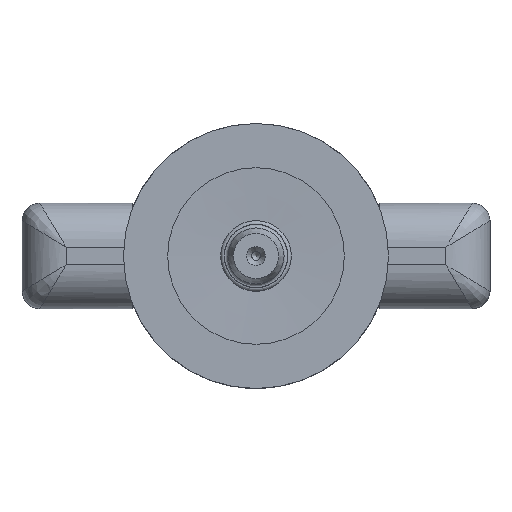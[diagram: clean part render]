
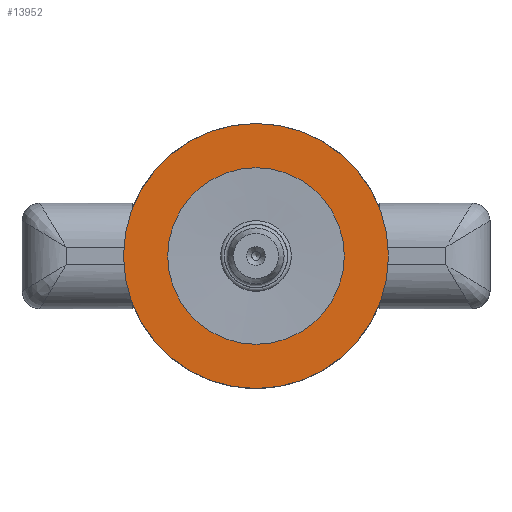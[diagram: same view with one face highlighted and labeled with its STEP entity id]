
A CAD part, front view. The second image highlights one B-rep face of the part: STEP entity #13952.
In plain terms, the highlighted planar face has unit normal (0, -1, 0) as drawn and (0, 0, -1) by its records, which use the part's own axes.
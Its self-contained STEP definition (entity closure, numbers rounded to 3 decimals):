
#378=FACE_BOUND('',#5244,.T.);
#767=PLANE('',#14938);
#4346=FACE_OUTER_BOUND('',#5243,.T.);
#5243=EDGE_LOOP('',(#13138));
#5244=EDGE_LOOP('',(#13139));
#5550=CIRCLE('',#14921,15.);
#5557=CIRCLE('',#14935,10.);
#6912=VERTEX_POINT('',#44149);
#6919=VERTEX_POINT('',#44170);
#8986=EDGE_CURVE('',#6912,#6912,#5550,.T.);
#8993=EDGE_CURVE('',#6919,#6919,#5557,.T.);
#13138=ORIENTED_EDGE('',*,*,#8986,.T.);
#13139=ORIENTED_EDGE('',*,*,#8993,.F.);
#13952=ADVANCED_FACE('',(#4346,#378),#767,.F.);
#14921=AXIS2_PLACEMENT_3D('',#44150,#17554,#17555);
#14935=AXIS2_PLACEMENT_3D('',#44171,#17582,#17583);
#14938=AXIS2_PLACEMENT_3D('',#44175,#17588,#17589);
#17554=DIRECTION('center_axis',(0.,0.,-1.));
#17555=DIRECTION('ref_axis',(-1.,0.,0.));
#17582=DIRECTION('center_axis',(0.,0.,-1.));
#17583=DIRECTION('ref_axis',(-1.,0.,0.));
#17588=DIRECTION('center_axis',(0.,0.,1.));
#17589=DIRECTION('ref_axis',(1.,0.,0.));
#44149=CARTESIAN_POINT('',(15.,0.,0.));
#44150=CARTESIAN_POINT('Origin',(0.,0.,0.));
#44170=CARTESIAN_POINT('',(10.,0.,0.));
#44171=CARTESIAN_POINT('Origin',(0.,0.,0.));
#44175=CARTESIAN_POINT('Origin',(0.,0.,0.));
